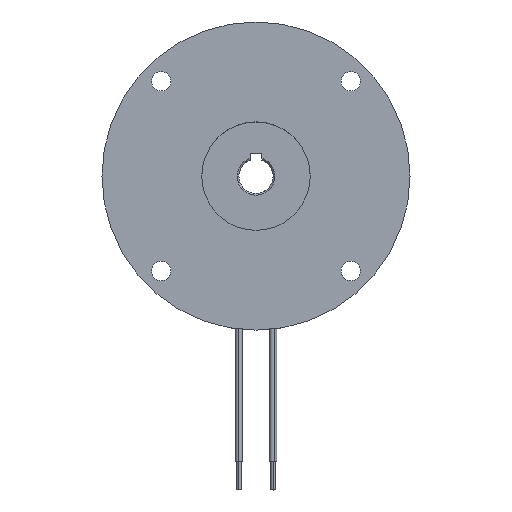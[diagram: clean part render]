
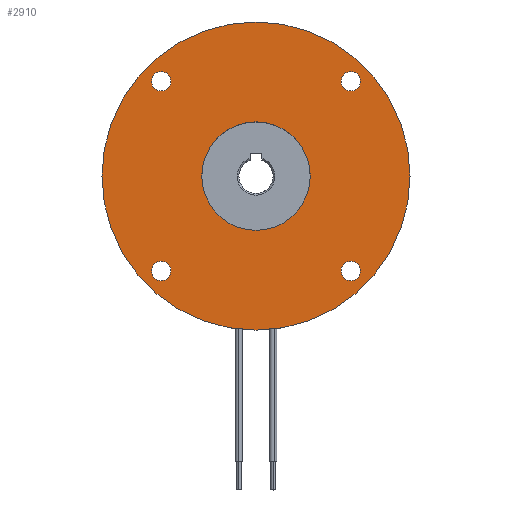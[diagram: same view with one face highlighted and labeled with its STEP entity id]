
A CAD part, top view. The second image highlights one B-rep face of the part: STEP entity #2910.
In plain terms, the highlighted planar face has unit normal (0, 0, 1).
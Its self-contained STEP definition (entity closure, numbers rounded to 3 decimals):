
#8 = FACE_BOUND ( 'NONE', #539, .T. ) ;
#79 = CARTESIAN_POINT ( 'NONE',  ( -14.917, -16.617, 0. ) ) ;
#206 = CARTESIAN_POINT ( 'NONE',  ( 0., 0., 0. ) ) ;
#379 = CARTESIAN_POINT ( 'NONE',  ( 18.317, -16.617, 0. ) ) ;
#389 = AXIS2_PLACEMENT_3D ( 'NONE', #5248, #3547, #7887 ) ;
#539 = EDGE_LOOP ( 'NONE', ( #3268, #1497 ) ) ;
#582 = EDGE_LOOP ( 'NONE', ( #5041, #6807 ) ) ;
#668 = EDGE_CURVE ( 'NONE', #7466, #3906, #1779, .T. ) ;
#671 = FACE_BOUND ( 'NONE', #582, .T. ) ;
#748 = AXIS2_PLACEMENT_3D ( 'NONE', #7112, #3411, #5201 ) ;
#759 = CARTESIAN_POINT ( 'NONE',  ( -16.617, -16.617, 0. ) ) ;
#1089 = AXIS2_PLACEMENT_3D ( 'NONE', #6728, #5908, #7313 ) ;
#1118 = CARTESIAN_POINT ( 'NONE',  ( -16.617, 16.617, 0. ) ) ;
#1187 = CARTESIAN_POINT ( 'NONE',  ( 16.617, 16.617, 0. ) ) ;
#1238 = FACE_OUTER_BOUND ( 'NONE', #2710, .T. ) ;
#1320 = CARTESIAN_POINT ( 'NONE',  ( 0., 27., 0. ) ) ;
#1343 = CARTESIAN_POINT ( 'NONE',  ( 14.917, 16.617, 0. ) ) ;
#1397 = AXIS2_PLACEMENT_3D ( 'NONE', #1118, #4195, #2345 ) ;
#1430 = CARTESIAN_POINT ( 'NONE',  ( 14.917, -16.617, 0. ) ) ;
#1497 = ORIENTED_EDGE ( 'NONE', *, *, #668, .T. ) ;
#1560 = DIRECTION ( 'NONE',  ( 0., 0., -1. ) ) ;
#1689 = EDGE_LOOP ( 'NONE', ( #7345, #6785 ) ) ;
#1730 = CARTESIAN_POINT ( 'NONE',  ( 27., 0., 0. ) ) ;
#1744 = CARTESIAN_POINT ( 'NONE',  ( 9.5, 0., 0. ) ) ;
#1779 = CIRCLE ( 'NONE', #2557, 1.7 ) ;
#1805 = CIRCLE ( 'NONE', #7067, 1.7 ) ;
#1844 = DIRECTION ( 'NONE',  ( 0., 0., -1. ) ) ;
#1888 = AXIS2_PLACEMENT_3D ( 'NONE', #4774, #2263, #6622 ) ;
#1931 = EDGE_CURVE ( 'NONE', #2454, #4529, #2457, .T. ) ;
#2016 = CARTESIAN_POINT ( 'NONE',  ( -9.5, 0., 0. ) ) ;
#2043 = VERTEX_POINT ( 'NONE', #1730 ) ;
#2086 = DIRECTION ( 'NONE',  ( 0., 0., -1. ) ) ;
#2121 = DIRECTION ( 'NONE',  ( -1., 0., 0. ) ) ;
#2145 = AXIS2_PLACEMENT_3D ( 'NONE', #2279, #7294, #3409 ) ;
#2263 = DIRECTION ( 'NONE',  ( 0., 0., -1. ) ) ;
#2271 = EDGE_CURVE ( 'NONE', #2043, #7059, #6782, .T. ) ;
#2274 = EDGE_CURVE ( 'NONE', #3906, #7466, #4279, .T. ) ;
#2279 = CARTESIAN_POINT ( 'NONE',  ( 0., 0., 0. ) ) ;
#2304 = DIRECTION ( 'NONE',  ( -1., 0., 0. ) ) ;
#2345 = DIRECTION ( 'NONE',  ( -1., 0., 0. ) ) ;
#2399 = ORIENTED_EDGE ( 'NONE', *, *, #4092, .T. ) ;
#2454 = VERTEX_POINT ( 'NONE', #3577 ) ;
#2457 = CIRCLE ( 'NONE', #1397, 1.7 ) ;
#2463 = ORIENTED_EDGE ( 'NONE', *, *, #2613, .T. ) ;
#2474 = PLANE ( 'NONE',  #4811 ) ;
#2552 = DIRECTION ( 'NONE',  ( -1., 0., 0. ) ) ;
#2557 = AXIS2_PLACEMENT_3D ( 'NONE', #6026, #1560, #2304 ) ;
#2598 = FACE_BOUND ( 'NONE', #1689, .T. ) ;
#2613 = EDGE_CURVE ( 'NONE', #6721, #3415, #6929, .T. ) ;
#2620 = AXIS2_PLACEMENT_3D ( 'NONE', #2827, #2086, #2121 ) ;
#2671 = EDGE_CURVE ( 'NONE', #5889, #4911, #1805, .T. ) ;
#2674 = AXIS2_PLACEMENT_3D ( 'NONE', #1187, #1844, #6729 ) ;
#2710 = EDGE_LOOP ( 'NONE', ( #5965, #7467 ) ) ;
#2827 = CARTESIAN_POINT ( 'NONE',  ( 0., 0., 0. ) ) ;
#2851 = DIRECTION ( 'NONE',  ( 0., 0., -1. ) ) ;
#2910 = ADVANCED_FACE ( 'NONE', ( #6871, #8, #3264, #671, #1238, #2598 ), #2474, .F. ) ;
#3077 = CIRCLE ( 'NONE', #1888, 1.7 ) ;
#3225 = DIRECTION ( 'NONE',  ( 0., 0., -1. ) ) ;
#3264 = FACE_BOUND ( 'NONE', #4090, .T. ) ;
#3268 = ORIENTED_EDGE ( 'NONE', *, *, #2274, .T. ) ;
#3409 = DIRECTION ( 'NONE',  ( -1., 0., 0. ) ) ;
#3411 = DIRECTION ( 'NONE',  ( 0., 0., -1. ) ) ;
#3415 = VERTEX_POINT ( 'NONE', #79 ) ;
#3520 = AXIS2_PLACEMENT_3D ( 'NONE', #206, #4631, #6434 ) ;
#3524 = CARTESIAN_POINT ( 'NONE',  ( -27., 0., 0. ) ) ;
#3547 = DIRECTION ( 'NONE',  ( 0., 0., -1. ) ) ;
#3577 = CARTESIAN_POINT ( 'NONE',  ( -18.317, 16.617, 0. ) ) ;
#3864 = CIRCLE ( 'NONE', #1089, 9.5 ) ;
#3906 = VERTEX_POINT ( 'NONE', #1430 ) ;
#4090 = EDGE_LOOP ( 'NONE', ( #2463, #2399 ) ) ;
#4092 = EDGE_CURVE ( 'NONE', #3415, #6721, #5104, .T. ) ;
#4195 = DIRECTION ( 'NONE',  ( 0., 0., -1. ) ) ;
#4279 = CIRCLE ( 'NONE', #748, 1.7 ) ;
#4285 = CARTESIAN_POINT ( 'NONE',  ( -18.317, -16.617, 0. ) ) ;
#4286 = AXIS2_PLACEMENT_3D ( 'NONE', #759, #7670, #4368 ) ;
#4309 = CIRCLE ( 'NONE', #2674, 1.7 ) ;
#4330 = EDGE_CURVE ( 'NONE', #4911, #5889, #4309, .T. ) ;
#4368 = DIRECTION ( 'NONE',  ( -1., 0., 0. ) ) ;
#4465 = ORIENTED_EDGE ( 'NONE', *, *, #2671, .T. ) ;
#4528 = EDGE_CURVE ( 'NONE', #5996, #4585, #5753, .T. ) ;
#4529 = VERTEX_POINT ( 'NONE', #7876 ) ;
#4585 = VERTEX_POINT ( 'NONE', #1744 ) ;
#4631 = DIRECTION ( 'NONE',  ( 0., 0., -1. ) ) ;
#4774 = CARTESIAN_POINT ( 'NONE',  ( -16.617, 16.617, 0. ) ) ;
#4811 = AXIS2_PLACEMENT_3D ( 'NONE', #1320, #3225, #2552 ) ;
#4911 = VERTEX_POINT ( 'NONE', #1343 ) ;
#4986 = ORIENTED_EDGE ( 'NONE', *, *, #4330, .T. ) ;
#5041 = ORIENTED_EDGE ( 'NONE', *, *, #1931, .T. ) ;
#5101 = CARTESIAN_POINT ( 'NONE',  ( 18.317, 16.617, 0. ) ) ;
#5104 = CIRCLE ( 'NONE', #389, 1.7 ) ;
#5201 = DIRECTION ( 'NONE',  ( -1., 0., 0. ) ) ;
#5248 = CARTESIAN_POINT ( 'NONE',  ( -16.617, -16.617, 0. ) ) ;
#5326 = EDGE_CURVE ( 'NONE', #7059, #2043, #5538, .T. ) ;
#5527 = EDGE_CURVE ( 'NONE', #4529, #2454, #3077, .T. ) ;
#5538 = CIRCLE ( 'NONE', #2145, 27. ) ;
#5753 = CIRCLE ( 'NONE', #2620, 9.5 ) ;
#5889 = VERTEX_POINT ( 'NONE', #5101 ) ;
#5908 = DIRECTION ( 'NONE',  ( 0., 0., -1. ) ) ;
#5965 = ORIENTED_EDGE ( 'NONE', *, *, #5326, .F. ) ;
#5996 = VERTEX_POINT ( 'NONE', #2016 ) ;
#6026 = CARTESIAN_POINT ( 'NONE',  ( 16.617, -16.617, 0. ) ) ;
#6081 = EDGE_CURVE ( 'NONE', #4585, #5996, #3864, .T. ) ;
#6131 = EDGE_LOOP ( 'NONE', ( #4986, #4465 ) ) ;
#6434 = DIRECTION ( 'NONE',  ( -1., 0., 0. ) ) ;
#6622 = DIRECTION ( 'NONE',  ( -1., 0., 0. ) ) ;
#6721 = VERTEX_POINT ( 'NONE', #4285 ) ;
#6728 = CARTESIAN_POINT ( 'NONE',  ( 0., 0., 0. ) ) ;
#6729 = DIRECTION ( 'NONE',  ( -1., 0., 0. ) ) ;
#6782 = CIRCLE ( 'NONE', #3520, 27. ) ;
#6785 = ORIENTED_EDGE ( 'NONE', *, *, #6081, .T. ) ;
#6807 = ORIENTED_EDGE ( 'NONE', *, *, #5527, .T. ) ;
#6871 = FACE_BOUND ( 'NONE', #6131, .T. ) ;
#6929 = CIRCLE ( 'NONE', #4286, 1.7 ) ;
#7059 = VERTEX_POINT ( 'NONE', #3524 ) ;
#7067 = AXIS2_PLACEMENT_3D ( 'NONE', #7792, #2851, #7205 ) ;
#7112 = CARTESIAN_POINT ( 'NONE',  ( 16.617, -16.617, 0. ) ) ;
#7205 = DIRECTION ( 'NONE',  ( -1., 0., 0. ) ) ;
#7294 = DIRECTION ( 'NONE',  ( 0., 0., -1. ) ) ;
#7313 = DIRECTION ( 'NONE',  ( -1., 0., 0. ) ) ;
#7345 = ORIENTED_EDGE ( 'NONE', *, *, #4528, .T. ) ;
#7466 = VERTEX_POINT ( 'NONE', #379 ) ;
#7467 = ORIENTED_EDGE ( 'NONE', *, *, #2271, .F. ) ;
#7670 = DIRECTION ( 'NONE',  ( 0., 0., -1. ) ) ;
#7792 = CARTESIAN_POINT ( 'NONE',  ( 16.617, 16.617, 0. ) ) ;
#7876 = CARTESIAN_POINT ( 'NONE',  ( -14.917, 16.617, 0. ) ) ;
#7887 = DIRECTION ( 'NONE',  ( -1., 0., 0. ) ) ;
